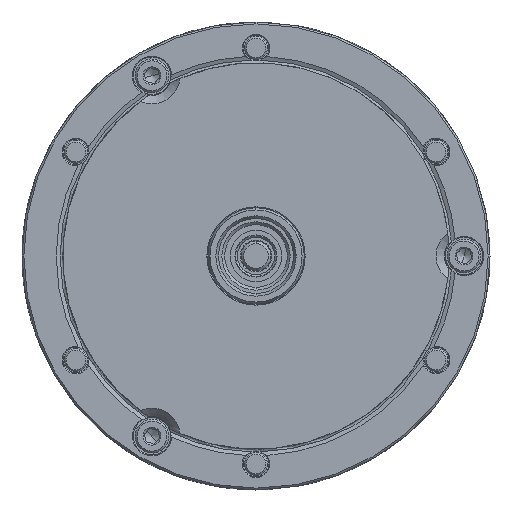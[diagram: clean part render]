
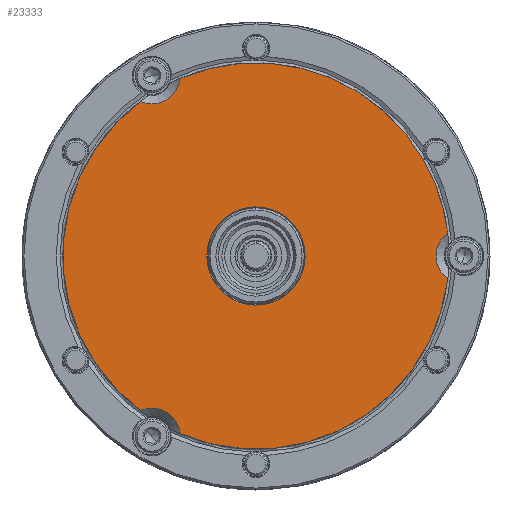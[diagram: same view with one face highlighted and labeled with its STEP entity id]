
A CAD part, left-side view. The second image highlights one B-rep face of the part: STEP entity #23333.
In plain terms, the highlighted planar face has unit normal (-1, 0, 0).
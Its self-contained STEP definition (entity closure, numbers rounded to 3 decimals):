
#259 = EDGE_CURVE ( 'NONE', #16822, #21753, #24922, .T. ) ;
#546 = CARTESIAN_POINT ( 'NONE',  ( -57., 16.251, 37.941 ) ) ;
#668 = CARTESIAN_POINT ( 'NONE',  ( -57., -35.745, 20.638 ) ) ;
#968 = VERTEX_POINT ( 'NONE', #41841 ) ;
#1746 = AXIS2_PLACEMENT_3D ( 'NONE', #14118, #28589, #6284 ) ;
#1886 = CARTESIAN_POINT ( 'NONE',  ( -57., -44.45, 0. ) ) ;
#3011 = EDGE_CURVE ( 'NONE', #968, #49317, #14651, .T. ) ;
#3052 = VERTEX_POINT ( 'NONE', #40930 ) ;
#3139 = DIRECTION ( 'NONE',  ( 0., 0.866, -0.5 ) ) ;
#4264 = CARTESIAN_POINT ( 'NONE',  ( -57., 9.093, -5.25 ) ) ;
#5081 = CARTESIAN_POINT ( 'NONE',  ( -57., -40.983, 4.897 ) ) ;
#5999 = CARTESIAN_POINT ( 'NONE',  ( -57., -9.093, 5.25 ) ) ;
#6284 = DIRECTION ( 'NONE',  ( 0., -0.866, 0.5 ) ) ;
#6393 = DIRECTION ( 'NONE',  ( 0., 0.866, 0.5 ) ) ;
#6651 = DIRECTION ( 'NONE',  ( -1., 0., 0. ) ) ;
#8917 = ORIENTED_EDGE ( 'NONE', *, *, #49464, .F. ) ;
#9856 = AXIS2_PLACEMENT_3D ( 'NONE', #10239, #25441, #26182 ) ;
#10239 = CARTESIAN_POINT ( 'NONE',  ( -57., 0., 0. ) ) ;
#12335 = VERTEX_POINT ( 'NONE', #668 ) ;
#13190 = DIRECTION ( 'NONE',  ( 0., -0.866, 0.5 ) ) ;
#13578 = EDGE_CURVE ( 'NONE', #33547, #49317, #46629, .T. ) ;
#13867 = EDGE_CURVE ( 'NONE', #968, #35542, #29235, .T. ) ;
#14118 = CARTESIAN_POINT ( 'NONE',  ( -57., 0., 0. ) ) ;
#14513 = FACE_BOUND ( 'NONE', #41277, .T. ) ;
#14651 = CIRCLE ( 'NONE', #9856, 41.275 ) ;
#16553 = EDGE_CURVE ( 'NONE', #3052, #20385, #25137, .T. ) ;
#16772 = ORIENTED_EDGE ( 'NONE', *, *, #39443, .T. ) ;
#16822 = VERTEX_POINT ( 'NONE', #4264 ) ;
#16985 = DIRECTION ( 'NONE',  ( -1., 0., 0. ) ) ;
#17841 = CARTESIAN_POINT ( 'NONE',  ( -57., 20.638, 35.745 ) ) ;
#17936 = CARTESIAN_POINT ( 'NONE',  ( -57., -40.983, -4.897 ) ) ;
#18483 = CIRCLE ( 'NONE', #39569, 41.275 ) ;
#19604 = ORIENTED_EDGE ( 'NONE', *, *, #41966, .T. ) ;
#20385 = VERTEX_POINT ( 'NONE', #546 ) ;
#21506 = DIRECTION ( 'NONE',  ( -1., 0., 0. ) ) ;
#21753 = VERTEX_POINT ( 'NONE', #5999 ) ;
#22355 = ORIENTED_EDGE ( 'NONE', *, *, #13867, .F. ) ;
#22587 = CARTESIAN_POINT ( 'NONE',  ( -57., 22.225, -38.495 ) ) ;
#23333 = ADVANCED_FACE ( 'NONE', ( #14513, #26422 ), #45464, .F. ) ;
#24567 = DIRECTION ( 'NONE',  ( 0., -0.866, 0.5 ) ) ;
#24922 = CIRCLE ( 'NONE', #31411, 10.5 ) ;
#24974 = EDGE_LOOP ( 'NONE', ( #16772, #22355, #40734, #43035, #31589, #19604, #35411 ) ) ;
#25137 = CIRCLE ( 'NONE', #30795, 6. ) ;
#25441 = DIRECTION ( 'NONE',  ( -1., 0., 0. ) ) ;
#26182 = DIRECTION ( 'NONE',  ( 0., -0.866, 0.5 ) ) ;
#26422 = FACE_OUTER_BOUND ( 'NONE', #24974, .T. ) ;
#28375 = DIRECTION ( 'NONE',  ( -1., 0., 0. ) ) ;
#28589 = DIRECTION ( 'NONE',  ( -1., 0., 0. ) ) ;
#29235 = CIRCLE ( 'NONE', #46238, 6. ) ;
#29486 = DIRECTION ( 'NONE',  ( 1., 0., 0. ) ) ;
#30795 = AXIS2_PLACEMENT_3D ( 'NONE', #48635, #40274, #44328 ) ;
#30827 = DIRECTION ( 'NONE',  ( -1., 0., 0. ) ) ;
#30945 = EDGE_CURVE ( 'NONE', #33547, #12335, #43638, .T. ) ;
#31217 = AXIS2_PLACEMENT_3D ( 'NONE', #1886, #49045, #33824 ) ;
#31411 = AXIS2_PLACEMENT_3D ( 'NONE', #49368, #21506, #48637 ) ;
#31589 = ORIENTED_EDGE ( 'NONE', *, *, #30945, .T. ) ;
#31834 = CARTESIAN_POINT ( 'NONE',  ( -57., 24.733, -33.044 ) ) ;
#33547 = VERTEX_POINT ( 'NONE', #5081 ) ;
#33824 = DIRECTION ( 'NONE',  ( 0., 0., -1. ) ) ;
#34891 = CIRCLE ( 'NONE', #1746, 41.275 ) ;
#34898 = CARTESIAN_POINT ( 'NONE',  ( -57., 0., 0. ) ) ;
#35111 = ORIENTED_EDGE ( 'NONE', *, *, #259, .F. ) ;
#35411 = ORIENTED_EDGE ( 'NONE', *, *, #16553, .F. ) ;
#35524 = AXIS2_PLACEMENT_3D ( 'NONE', #43861, #16985, #13190 ) ;
#35542 = VERTEX_POINT ( 'NONE', #31834 ) ;
#35896 = AXIS2_PLACEMENT_3D ( 'NONE', #17841, #29486, #3139 ) ;
#39443 = EDGE_CURVE ( 'NONE', #3052, #35542, #18483, .T. ) ;
#39569 = AXIS2_PLACEMENT_3D ( 'NONE', #47187, #28375, #24567 ) ;
#40274 = DIRECTION ( 'NONE',  ( -1., 0., 0. ) ) ;
#40734 = ORIENTED_EDGE ( 'NONE', *, *, #3011, .T. ) ;
#40930 = CARTESIAN_POINT ( 'NONE',  ( -57., 24.733, 33.044 ) ) ;
#41277 = EDGE_LOOP ( 'NONE', ( #8917, #35111 ) ) ;
#41841 = CARTESIAN_POINT ( 'NONE',  ( -57., 16.251, -37.941 ) ) ;
#41966 = EDGE_CURVE ( 'NONE', #12335, #20385, #34891, .T. ) ;
#42934 = AXIS2_PLACEMENT_3D ( 'NONE', #34898, #30827, #43257 ) ;
#43035 = ORIENTED_EDGE ( 'NONE', *, *, #13578, .F. ) ;
#43257 = DIRECTION ( 'NONE',  ( 0., -0.866, 0.5 ) ) ;
#43638 = CIRCLE ( 'NONE', #35524, 41.275 ) ;
#43861 = CARTESIAN_POINT ( 'NONE',  ( -57., 0., 0. ) ) ;
#44328 = DIRECTION ( 'NONE',  ( 0., -0.866, 0.5 ) ) ;
#45464 = PLANE ( 'NONE',  #35896 ) ;
#46238 = AXIS2_PLACEMENT_3D ( 'NONE', #22587, #6651, #6393 ) ;
#46629 = CIRCLE ( 'NONE', #31217, 6. ) ;
#47008 = CIRCLE ( 'NONE', #42934, 10.5 ) ;
#47187 = CARTESIAN_POINT ( 'NONE',  ( -57., 0., 0. ) ) ;
#48635 = CARTESIAN_POINT ( 'NONE',  ( -57., 22.225, 38.495 ) ) ;
#48637 = DIRECTION ( 'NONE',  ( 0., -0.866, 0.5 ) ) ;
#49045 = DIRECTION ( 'NONE',  ( -1., 0., 0. ) ) ;
#49317 = VERTEX_POINT ( 'NONE', #17936 ) ;
#49368 = CARTESIAN_POINT ( 'NONE',  ( -57., 0., 0. ) ) ;
#49464 = EDGE_CURVE ( 'NONE', #21753, #16822, #47008, .T. ) ;
